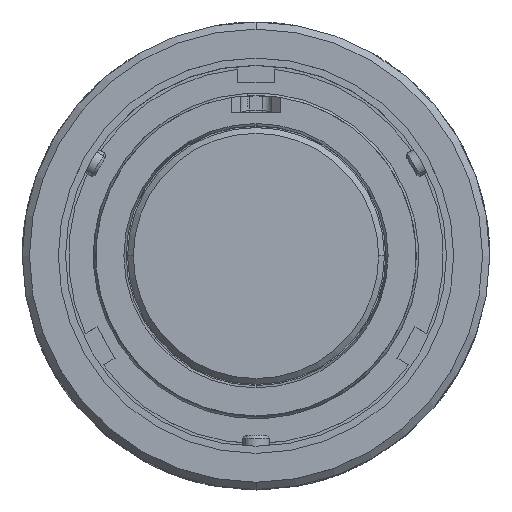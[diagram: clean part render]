
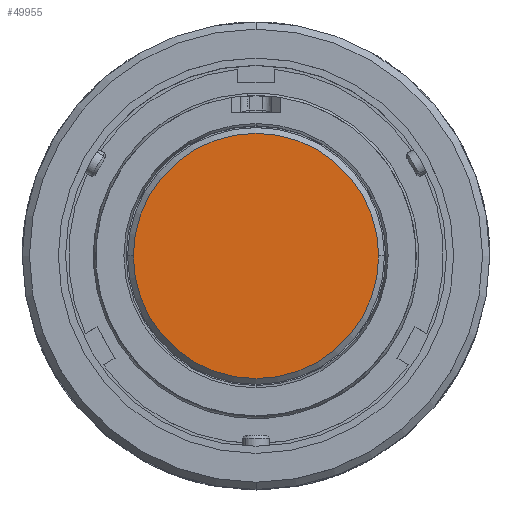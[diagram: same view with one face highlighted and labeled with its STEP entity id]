
A CAD part, top view. The second image highlights one B-rep face of the part: STEP entity #49955.
In plain terms, the highlighted planar face has unit normal (0, 0, 1).
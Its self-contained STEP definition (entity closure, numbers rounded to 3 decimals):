
#2153 = PLANE ( 'NONE',  #93522 ) ;
#8924 = CARTESIAN_POINT ( 'NONE',  ( -10.795, 0., -13.589 ) ) ;
#9611 = DIRECTION ( 'NONE',  ( 1., 0., 0. ) ) ;
#30239 = EDGE_LOOP ( 'NONE', ( #73370, #75406 ) ) ;
#40163 = VERTEX_POINT ( 'NONE', #41393 ) ;
#40887 = DIRECTION ( 'NONE',  ( 1., 0., 0. ) ) ;
#41393 = CARTESIAN_POINT ( 'NONE',  ( 10.795, 0., -13.589 ) ) ;
#44831 = VERTEX_POINT ( 'NONE', #8924 ) ;
#46272 = AXIS2_PLACEMENT_3D ( 'NONE', #63781, #60150, #9611 ) ;
#48599 = DIRECTION ( 'NONE',  ( 0., 0., 1. ) ) ;
#49955 = ADVANCED_FACE ( 'NONE', ( #59862 ), #2153, .T. ) ;
#53758 = DIRECTION ( 'NONE',  ( 0., 0., 1. ) ) ;
#58456 = CARTESIAN_POINT ( 'NONE',  ( 0., 0., -13.589 ) ) ;
#59862 = FACE_OUTER_BOUND ( 'NONE', #30239, .T. ) ;
#60150 = DIRECTION ( 'NONE',  ( 0., 0., 1. ) ) ;
#63781 = CARTESIAN_POINT ( 'NONE',  ( 0., 0., -13.589 ) ) ;
#70970 = AXIS2_PLACEMENT_3D ( 'NONE', #58456, #48599, #40887 ) ;
#73370 = ORIENTED_EDGE ( 'NONE', *, *, #82089, .T. ) ;
#75406 = ORIENTED_EDGE ( 'NONE', *, *, #89001, .T. ) ;
#82089 = EDGE_CURVE ( 'NONE', #44831, #40163, #100714, .T. ) ;
#86229 = CARTESIAN_POINT ( 'NONE',  ( 0., 0., -13.589 ) ) ;
#89001 = EDGE_CURVE ( 'NONE', #40163, #44831, #104297, .T. ) ;
#93522 = AXIS2_PLACEMENT_3D ( 'NONE', #86229, #53758, #102716 ) ;
#100714 = CIRCLE ( 'NONE', #46272, 10.795 ) ;
#102716 = DIRECTION ( 'NONE',  ( 1., 0., 0. ) ) ;
#104297 = CIRCLE ( 'NONE', #70970, 10.795 ) ;
